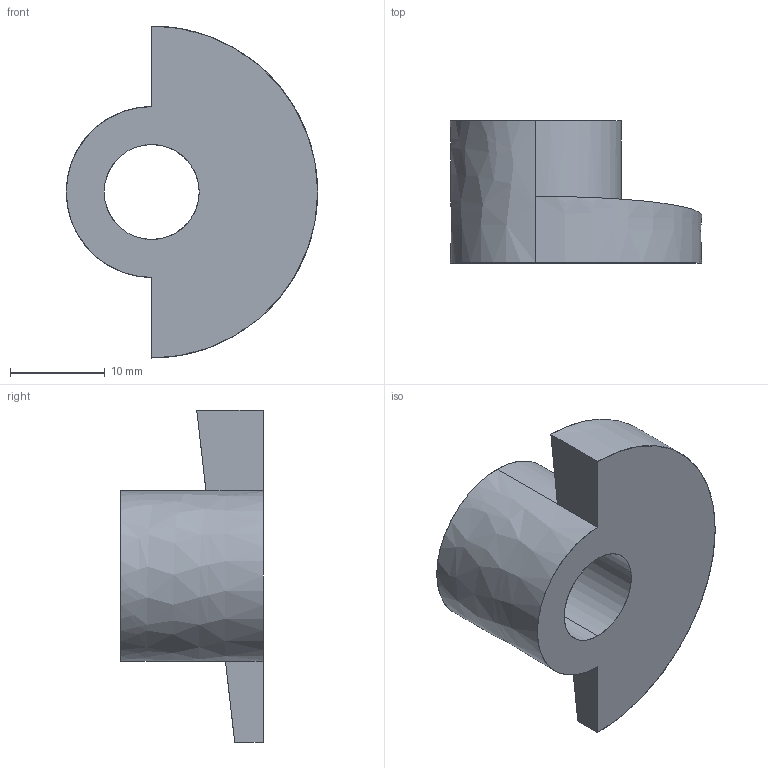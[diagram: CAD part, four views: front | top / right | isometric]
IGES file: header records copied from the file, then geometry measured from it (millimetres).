
Start section: SolidWorks IGES file using analytic representation for surfaces
Global section: file name: C:\Documents and Settings\IANO\Desktop\Temp File\Process pending\EXISTING\36820_v2\36820_v2_20170629_IGES\36820.W0010.igs; native system: SolidWorks 2009; preprocessor: SolidWorks 2009; author: IANO; date: 170627.113852; units: millimetre
Bounding box: 26.5 x 15 x 35 mm (x, y, z)
Surface area: 2599.8 mm2 (no closed solid volume)
Topology: 0 solids, 0 shells, 10 faces, 250 edges, 250 vertices
Faces by surface type: revolution 5, bspline 5
